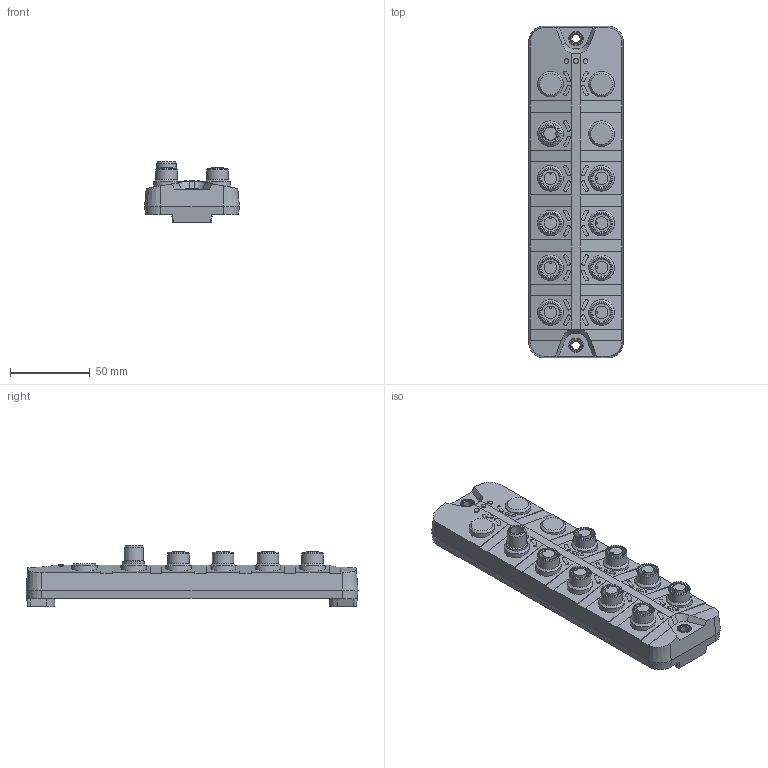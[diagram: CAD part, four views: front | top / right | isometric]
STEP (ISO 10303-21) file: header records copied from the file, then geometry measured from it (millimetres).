
FILE_DESCRIPTION( ( 'STEP AP203' ), '1' );
FILE_NAME( 'p:/temp/worker_38/temp/exporttempdir_296_278_HopdL/format_3/AC2951.stp', '2021-10-15T08:14:06', ( 'License CC BY-ND 4.0' ), ( 'CADENAS' ), ' ', 'PARTsolutions', ' ' );
FILE_SCHEMA( ( 'CONFIG_CONTROL_DESIGN' ) );
Length unit declared in the file: millimetre
Products named in the file (1): _AC2951
Bounding box: 59.3 x 208 x 38.25 mm (x, y, z)
Volume: 240031.4 mm3; surface area: 42895.5 mm2
Topology: 1 solids, 1 shells, 385 faces, 888 edges, 569 vertices
Faces by surface type: plane 173, cylinder 157, cone 55
Full cylindrical faces by diameter (mm): 3 x3, 5.3 x2, 7.9 x8, 8.3 x1, 10.917 x8, 12 x1, 12.1 x8, 13.5 x9, 16 x12
Entity records: 10446 total; most frequent: DIRECTION 1940, CARTESIAN_POINT 1748, ORIENTED_EDGE 1568, EDGE_CURVE 784, AXIS2_PLACEMENT_3D 774, VERTEX_POINT 554, EDGE_LOOP 542, FACE_OUTER_BOUND 437
